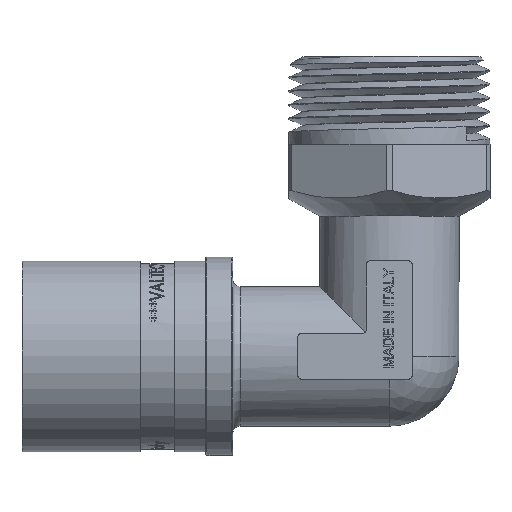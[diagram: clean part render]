
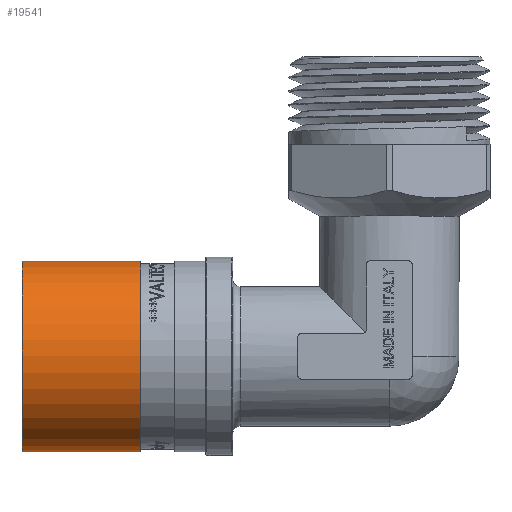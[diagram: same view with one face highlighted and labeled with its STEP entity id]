
A CAD part, top view. The second image highlights one B-rep face of the part: STEP entity #19541.
In plain terms, the highlighted cylindrical face has radius 12.5 mm (diameter 25 mm), a full revolution.
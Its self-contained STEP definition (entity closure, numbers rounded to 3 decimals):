
#2096=FACE_OUTER_BOUND('',#3264,.T.);
#3264=EDGE_LOOP('',(#18056,#18057,#18058,#18059,#18060,#18061));
#3659=CIRCLE('',#20490,12.5);
#3660=CIRCLE('',#20491,12.5);
#3661=CIRCLE('',#20493,12.5);
#3662=CIRCLE('',#20494,12.5);
#6220=LINE('',#43942,#7664);
#7664=VECTOR('',#23881,12.5);
#9518=VERTEX_POINT('',#43933);
#9519=VERTEX_POINT('',#43934);
#9520=VERTEX_POINT('',#43938);
#9521=VERTEX_POINT('',#43939);
#12397=EDGE_CURVE('',#9518,#9519,#3659,.T.);
#12398=EDGE_CURVE('',#9519,#9518,#3660,.T.);
#12399=EDGE_CURVE('',#9520,#9521,#3661,.T.);
#12400=EDGE_CURVE('',#9521,#9520,#3662,.T.);
#12401=EDGE_CURVE('',#9521,#9519,#6220,.T.);
#18056=ORIENTED_EDGE('',*,*,#12399,.F.);
#18057=ORIENTED_EDGE('',*,*,#12400,.F.);
#18058=ORIENTED_EDGE('',*,*,#12401,.T.);
#18059=ORIENTED_EDGE('',*,*,#12398,.T.);
#18060=ORIENTED_EDGE('',*,*,#12397,.T.);
#18061=ORIENTED_EDGE('',*,*,#12401,.F.);
#18511=CYLINDRICAL_SURFACE('',#20492,12.5);
#19541=ADVANCED_FACE('',(#2096),#18511,.T.);
#20490=AXIS2_PLACEMENT_3D('',#43935,#23871,#23872);
#20491=AXIS2_PLACEMENT_3D('',#43936,#23873,#23874);
#20492=AXIS2_PLACEMENT_3D('',#43937,#23875,#23876);
#20493=AXIS2_PLACEMENT_3D('',#43940,#23877,#23878);
#20494=AXIS2_PLACEMENT_3D('',#43941,#23879,#23880);
#23871=DIRECTION('center_axis',(1.,0.,0.));
#23872=DIRECTION('ref_axis',(0.,0.,-1.));
#23873=DIRECTION('center_axis',(1.,0.,0.));
#23874=DIRECTION('ref_axis',(0.,0.,-1.));
#23875=DIRECTION('center_axis',(1.,0.,0.));
#23876=DIRECTION('ref_axis',(0.,1.,0.));
#23877=DIRECTION('center_axis',(1.,0.,0.));
#23878=DIRECTION('ref_axis',(0.,0.,-1.));
#23879=DIRECTION('center_axis',(1.,0.,0.));
#23880=DIRECTION('ref_axis',(0.,0.,-1.));
#23881=DIRECTION('',(-1.,0.,0.));
#43933=CARTESIAN_POINT('',(-48.161,12.5,0.));
#43934=CARTESIAN_POINT('',(-48.161,-12.5,0.));
#43935=CARTESIAN_POINT('Origin',(-48.161,0.,0.));
#43936=CARTESIAN_POINT('Origin',(-48.161,0.,0.));
#43937=CARTESIAN_POINT('Origin',(-40.411,0.,0.));
#43938=CARTESIAN_POINT('',(-32.661,12.5,0.));
#43939=CARTESIAN_POINT('',(-32.661,-12.5,0.));
#43940=CARTESIAN_POINT('Origin',(-32.661,0.,0.));
#43941=CARTESIAN_POINT('Origin',(-32.661,0.,0.));
#43942=CARTESIAN_POINT('',(-40.411,-12.5,0.));
